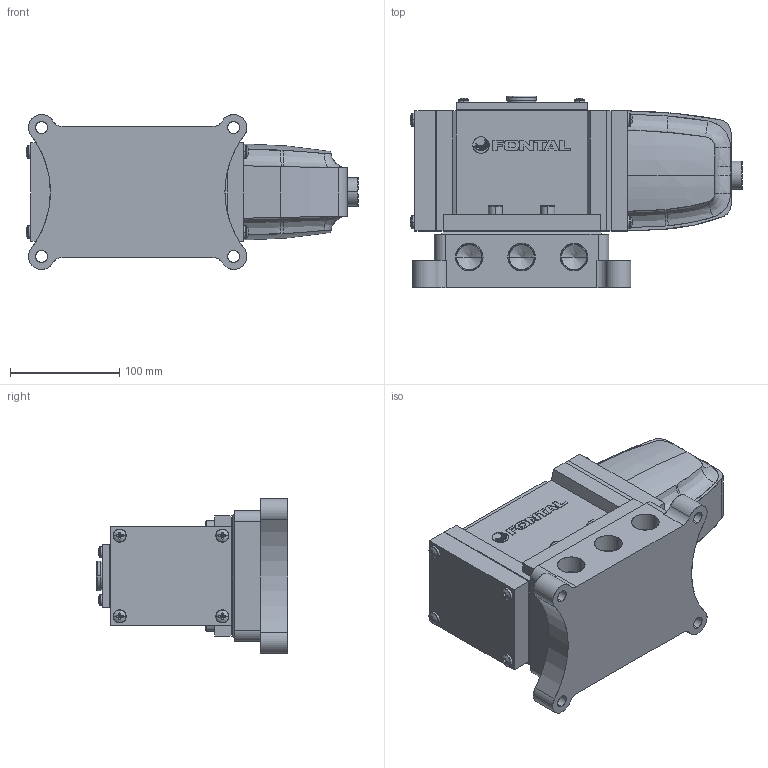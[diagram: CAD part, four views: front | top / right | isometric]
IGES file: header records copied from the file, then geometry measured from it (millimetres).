
Start section: SolidWorks IGES file using analytic representation for surfaces
Global section: file name: D:\Custom\3D繪製\A\A25\AS2425-06-##.IGS,1; native system: 5HSolidWorks 2014; preprocessor: SolidWorks 2014; author: Chieh_Lu; date: 151223.135322; units: millimetre
Bounding box: 304.18 x 175.5 x 142 mm (x, y, z)
Surface area: 365720.6 mm2 (no closed solid volume)
Topology: 0 solids, 0 shells, 836 faces, 8884 edges, 8842 vertices
Faces by surface type: bspline 532, revolution 304
